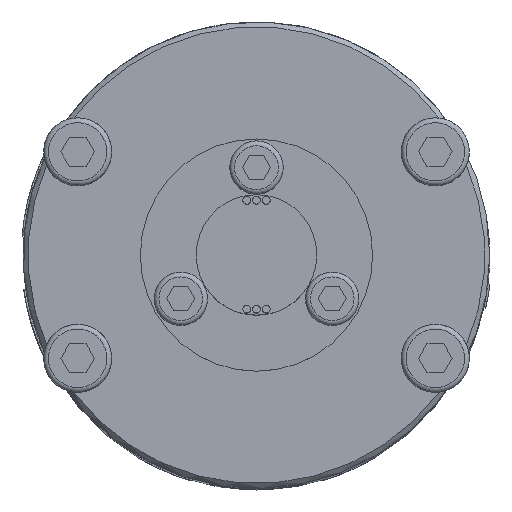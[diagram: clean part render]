
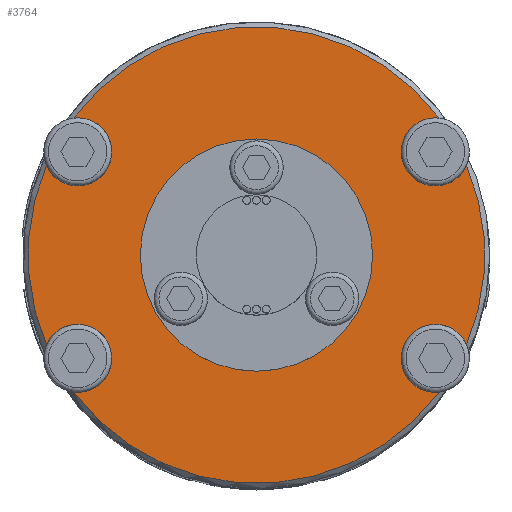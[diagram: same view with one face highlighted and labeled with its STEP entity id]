
A CAD part, top view. The second image highlights one B-rep face of the part: STEP entity #3764.
In plain terms, the highlighted planar face has unit normal (0, 0, 1).
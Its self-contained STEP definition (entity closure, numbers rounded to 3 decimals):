
#3004=FACE_BOUND('',#6402,.T.);
#3005=FACE_BOUND('',#6403,.T.);
#3420=CIRCLE('',#19624,11.95);
#3421=CIRCLE('',#19626,3.5);
#3422=CIRCLE('',#19627,23.5);
#3423=CIRCLE('',#19628,3.5);
#3424=CIRCLE('',#19629,23.5);
#3425=CIRCLE('',#19630,3.5);
#3426=CIRCLE('',#19631,23.5);
#3427=CIRCLE('',#19632,3.5);
#3428=CIRCLE('',#19633,23.5);
#3764=ADVANCED_FACE('',(#3004,#3005),#4880,.T.);
#4880=PLANE('',#19634);
#6402=EDGE_LOOP('',(#7873,#7874,#7875,#7876,#7877,#7878,#7879,#7880));
#6403=EDGE_LOOP('',(#7881));
#7873=ORIENTED_EDGE('',*,*,#15273,.F.);
#7874=ORIENTED_EDGE('',*,*,#15274,.T.);
#7875=ORIENTED_EDGE('',*,*,#15275,.F.);
#7876=ORIENTED_EDGE('',*,*,#15276,.T.);
#7877=ORIENTED_EDGE('',*,*,#15277,.F.);
#7878=ORIENTED_EDGE('',*,*,#15278,.T.);
#7879=ORIENTED_EDGE('',*,*,#15279,.F.);
#7880=ORIENTED_EDGE('',*,*,#15280,.T.);
#7881=ORIENTED_EDGE('',*,*,#15272,.F.);
#13350=VERTEX_POINT('',#24040);
#13351=VERTEX_POINT('',#24043);
#13352=VERTEX_POINT('',#24044);
#13353=VERTEX_POINT('',#24046);
#13354=VERTEX_POINT('',#24048);
#13355=VERTEX_POINT('',#24050);
#13356=VERTEX_POINT('',#24052);
#13357=VERTEX_POINT('',#24054);
#13358=VERTEX_POINT('',#24056);
#15272=EDGE_CURVE('',#13350,#13350,#3420,.T.);
#15273=EDGE_CURVE('',#13351,#13352,#3421,.T.);
#15274=EDGE_CURVE('',#13351,#13353,#3422,.T.);
#15275=EDGE_CURVE('',#13354,#13353,#3423,.T.);
#15276=EDGE_CURVE('',#13354,#13355,#3424,.T.);
#15277=EDGE_CURVE('',#13356,#13355,#3425,.T.);
#15278=EDGE_CURVE('',#13356,#13357,#3426,.T.);
#15279=EDGE_CURVE('',#13358,#13357,#3427,.T.);
#15280=EDGE_CURVE('',#13358,#13352,#3428,.T.);
#19624=AXIS2_PLACEMENT_3D('',#24039,#20850,#20851);
#19626=AXIS2_PLACEMENT_3D('',#24042,#20854,#20855);
#19627=AXIS2_PLACEMENT_3D('',#24045,#20856,#20857);
#19628=AXIS2_PLACEMENT_3D('',#24047,#20858,#20859);
#19629=AXIS2_PLACEMENT_3D('',#24049,#20860,#20861);
#19630=AXIS2_PLACEMENT_3D('',#24051,#20862,#20863);
#19631=AXIS2_PLACEMENT_3D('',#24053,#20864,#20865);
#19632=AXIS2_PLACEMENT_3D('',#24055,#20866,#20867);
#19633=AXIS2_PLACEMENT_3D('',#24057,#20868,#20869);
#19634=AXIS2_PLACEMENT_3D('',#24058,#20870,#20871);
#20850=DIRECTION('',(0.,0.,1.));
#20851=DIRECTION('',(0.,1.,0.));
#20854=DIRECTION('',(0.,0.,1.));
#20855=DIRECTION('',(1.,0.,0.));
#20856=DIRECTION('',(0.,0.,1.));
#20857=DIRECTION('',(1.,0.,0.));
#20858=DIRECTION('',(0.,0.,1.));
#20859=DIRECTION('',(1.,0.,0.));
#20860=DIRECTION('',(0.,0.,1.));
#20861=DIRECTION('',(1.,0.,0.));
#20862=DIRECTION('',(0.,0.,1.));
#20863=DIRECTION('',(1.,0.,0.));
#20864=DIRECTION('',(0.,0.,1.));
#20865=DIRECTION('',(1.,0.,0.));
#20866=DIRECTION('',(0.,0.,1.));
#20867=DIRECTION('',(1.,0.,0.));
#20868=DIRECTION('',(0.,0.,1.));
#20869=DIRECTION('',(1.,0.,0.));
#20870=DIRECTION('',(0.,0.,1.));
#20871=DIRECTION('',(1.,0.,0.));
#24039=CARTESIAN_POINT('',(0.,0.,114.));
#24040=CARTESIAN_POINT('',(0.,11.95,114.));
#24042=CARTESIAN_POINT('',(-18.403,-10.625,114.));
#24043=CARTESIAN_POINT('',(-18.798,-14.103,114.));
#24044=CARTESIAN_POINT('',(-21.612,-9.228,114.));
#24045=CARTESIAN_POINT('',(0.,0.,114.));
#24046=CARTESIAN_POINT('',(18.798,-14.103,114.));
#24047=CARTESIAN_POINT('',(18.403,-10.625,114.));
#24048=CARTESIAN_POINT('',(21.612,-9.228,114.));
#24049=CARTESIAN_POINT('',(0.,0.,114.));
#24050=CARTESIAN_POINT('',(21.612,9.228,114.));
#24051=CARTESIAN_POINT('',(18.403,10.625,114.));
#24052=CARTESIAN_POINT('',(18.798,14.103,114.));
#24053=CARTESIAN_POINT('',(0.,0.,114.));
#24054=CARTESIAN_POINT('',(-18.798,14.103,114.));
#24055=CARTESIAN_POINT('',(-18.403,10.625,114.));
#24056=CARTESIAN_POINT('',(-21.612,9.228,114.));
#24057=CARTESIAN_POINT('',(0.,0.,114.));
#24058=CARTESIAN_POINT('',(0.,0.,114.));
